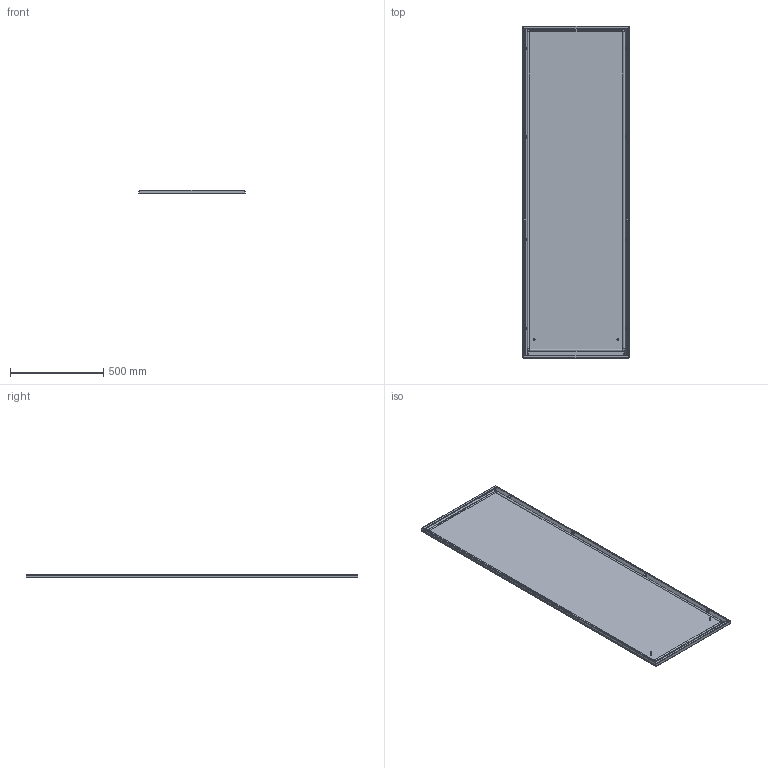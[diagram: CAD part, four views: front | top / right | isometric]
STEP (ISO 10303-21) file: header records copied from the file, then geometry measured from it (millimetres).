
FILE_DESCRIPTION (( 'STEP AP203' ), '1' );
FILE_NAME ('EUFI060180.STEP', '2015-05-04T07:45:09', ( 'Admin' ), ( '' ), 'SwSTEP 2.0', 'SolidWorks 2014', '' );
FILE_SCHEMA (( 'CONFIG_CONTROL_DESIGN' ));
Length unit declared in the file: millimetre
Products named in the file (1): EUFI060180
Bounding box: 568 x 1778 x 19 mm (x, y, z)
Volume: 1369719.8 mm3; surface area: 2418150.7 mm2
Topology: 1 solids, 1 shells, 254 faces, 685 edges, 414 vertices
Faces by surface type: plane 79, cylinder 75, cone 48, torus 40, sphere 12
Entity records: 8060 total; most frequent: DIRECTION 1481, CARTESIAN_POINT 1404, ORIENTED_EDGE 1346, EDGE_CURVE 673, AXIS2_PLACEMENT_3D 567, VERTEX_POINT 414, LINE 347, VECTOR 347
